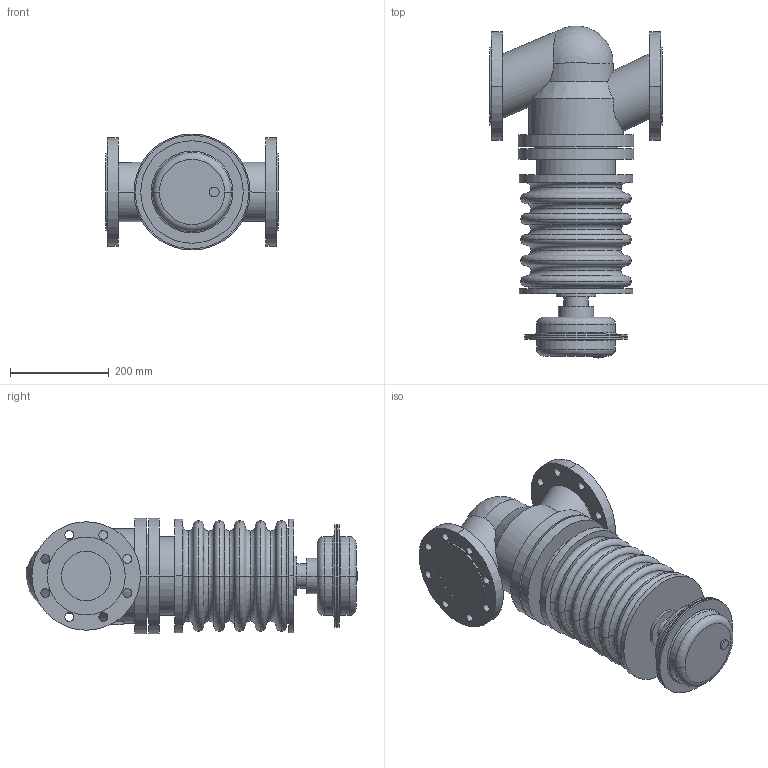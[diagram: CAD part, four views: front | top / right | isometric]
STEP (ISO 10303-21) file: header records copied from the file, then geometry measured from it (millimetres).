
FILE_DESCRIPTION(('OneSpaceDesigner STEP Export'),'2;1');
FILE_NAME('c000000556.stp','2006-08-30T 8:54:32',(''),(''),'OneSpace Designer STEP processor for AP203 (Solid Model)','OneSpace Designer 13.20A 18-Aug-2005 (C) CoCreate Software GmbH','');
FILE_SCHEMA(('CONFIG_CONTROL_DESIGN'));
Length unit declared in the file: millimetre
Products named in the file (1): 2
Bounding box: 350 x 673.15 x 235 mm (x, y, z)
Volume: 20599486.9 mm3; surface area: 893180.6 mm2
Topology: 1 solids, 1 shells, 176 faces, 404 edges, 253 vertices
Faces by surface type: cylinder 82, torus 50, plane 40, cone 2, sphere 2
Entity records: 4664 total; most frequent: CARTESIAN_POINT 1068, ORIENTED_EDGE 804, DIRECTION 639, EDGE_CURVE 402, AXIS2_PLACEMENT_3D 262, VERTEX_POINT 253, EDGE_LOOP 233, FACE_OUTER_BOUND 176
